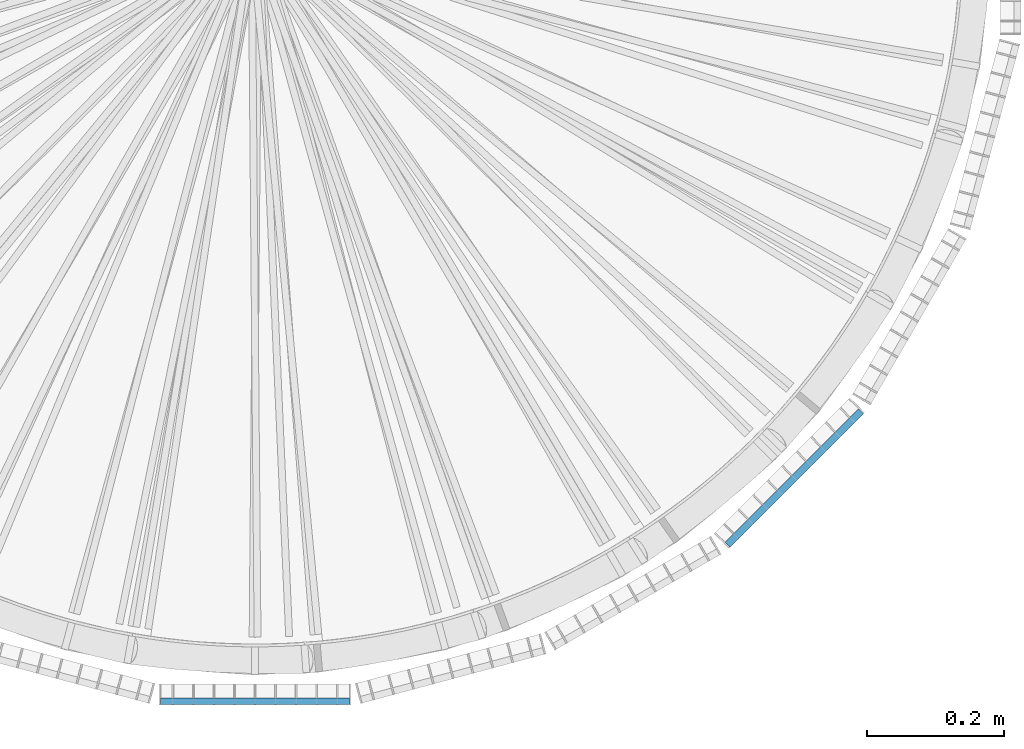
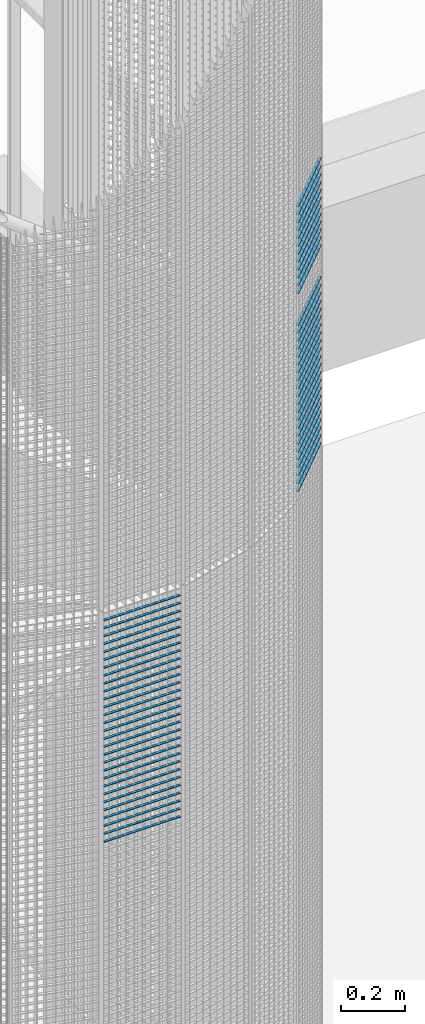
# One storey, part 381 of 1148: 63 beams, 2 elements without a shape of their own.
"""IFC2X3 building model written with IfcOpenShell, lengths in millimetres."""

from ifc_helpers import new_model, si_unit, frame, origin_with_axes, origin_2d_with_axis, place, context, subcontext, project, spatial, rectangle, extrude, material, type_object, element, aggregate, save


model = new_model("IFC2X3")

# Units and contexts
model_context = context("Model", 3, precision=1e-05, world=origin_with_axes())
body_context = subcontext(model_context, "Body", "Model", "MODEL_VIEW")
ifc_project = project(units=[si_unit("LENGTHUNIT", "METRE", prefix="MILLI"), si_unit("AREAUNIT", "SQUARE_METRE"), si_unit("VOLUMEUNIT", "CUBIC_METRE"), si_unit("MASSUNIT", "GRAM", prefix="KILO"), si_unit("TIMEUNIT", "SECOND"), si_unit("PLANEANGLEUNIT", "RADIAN"), si_unit("SOLIDANGLEUNIT", "STERADIAN"), si_unit("THERMODYNAMICTEMPERATUREUNIT", "DEGREE_CELSIUS"), si_unit("LUMINOUSINTENSITYUNIT", "LUMEN")], contexts=[model_context])

# Site, building, storey
site_placement = place(None, origin_with_axes())
site = spatial("IfcSite", under=ifc_project, at=site_placement, Name="Undefined", CompositionType="ELEMENT")
building_placement = place(site_placement, origin_with_axes())
building = spatial("IfcBuilding", under=site, at=building_placement, Name="Undefined", CompositionType="ELEMENT")
storey_placement = place(building_placement, origin_with_axes())
storey = spatial("IfcBuildingStorey", under=building, at=storey_placement, Name="Undefined", CompositionType="ELEMENT", Elevation=0.0)

# Assembly, beams
assembly_1_placement = place(storey_placement, origin_with_axes())
assembly_1 = element("IfcElementAssembly", 1, at=assembly_1_placement, inside=storey, Name="BORDURE", AssemblyPlace="NOTDEFINED", PredefinedType="NOTDEFINED")
ifc_material = material(Name="STEEL/S235JR")
beam_type = type_object("IfcBeamType", Name="PL2*10", PredefinedType="NOTDEFINED")
beam_1_placement = place(assembly_1_placement, frame((22484.9271684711, -689.771348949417, 15660.0), z_axis=(0.707106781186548, -0.707106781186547, 0.0), x_axis=(-0.70710678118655, -0.707106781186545, 0.0)))
beam_1 = element("IfcBeam", 2, at=beam_1_placement, type_object=beam_type, material=ifc_material, Name="ENTRETOISE", context=body_context, shape_type="SweptSolid", body=[
    extrude(rectangle(XDim=2.0, YDim=10.0, at=origin_2d_with_axis()), frame((275.999999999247, 9.09494701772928e-13, 1.53210777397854e-14), z_axis=(-1.0, 0.0, 0.0), x_axis=(0.0, -1.0, 0.0)), (0.0, 0.0, 1.0), 276.0),
])
beam_2_placement = place(assembly_1_placement, frame((22484.9271684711, -689.771348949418, 15630.0), z_axis=(0.707106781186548, -0.707106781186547, 0.0), x_axis=(-0.70710678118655, -0.707106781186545, 0.0)))
beam_2 = element("IfcBeam", 3, at=beam_2_placement, type_object=beam_type, material=ifc_material, Name="ENTRETOISE", context=body_context, shape_type="SweptSolid", body=[
    extrude(rectangle(XDim=2.0, YDim=10.0, at=origin_2d_with_axis()), frame((275.999999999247, 9.09494701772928e-13, 1.53210777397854e-14), z_axis=(-1.0, 0.0, 0.0), x_axis=(0.0, -1.0, 0.0)), (0.0, 0.0, 1.0), 276.0),
])
beam_3_placement = place(assembly_1_placement, frame((22484.9271684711, -689.771348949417, 15780.0), z_axis=(0.707106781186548, -0.707106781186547, 0.0), x_axis=(-0.70710678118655, -0.707106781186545, 0.0)))
beam_3 = element("IfcBeam", 4, at=beam_3_placement, type_object=beam_type, material=ifc_material, Name="ENTRETOISE", context=body_context, shape_type="SweptSolid", body=[
    extrude(rectangle(XDim=2.0, YDim=10.0, at=origin_2d_with_axis()), frame((275.999999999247, 9.09494701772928e-13, 1.53210777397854e-14), z_axis=(-1.0, 0.0, 0.0), x_axis=(0.0, -1.0, 0.0)), (0.0, 0.0, 1.0), 276.0),
])
beam_4_placement = place(assembly_1_placement, frame((22484.9271684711, -689.771348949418, 15600.0), z_axis=(0.707106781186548, -0.707106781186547, 0.0), x_axis=(-0.70710678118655, -0.707106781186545, 0.0)))
beam_4 = element("IfcBeam", 5, at=beam_4_placement, type_object=beam_type, material=ifc_material, Name="ENTRETOISE", context=body_context, shape_type="SweptSolid", body=[
    extrude(rectangle(XDim=2.0, YDim=10.0, at=origin_2d_with_axis()), frame((275.999999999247, 9.09494701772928e-13, 1.53210777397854e-14), z_axis=(-1.0, 0.0, 0.0), x_axis=(0.0, -1.0, 0.0)), (0.0, 0.0, 1.0), 276.0),
])
beam_5_placement = place(assembly_1_placement, frame((22484.9271684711, -689.771348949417, 15810.0), z_axis=(0.707106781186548, -0.707106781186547, 0.0), x_axis=(-0.70710678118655, -0.707106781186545, 0.0)))
beam_5 = element("IfcBeam", 6, at=beam_5_placement, type_object=beam_type, material=ifc_material, Name="ENTRETOISE", context=body_context, shape_type="SweptSolid", body=[
    extrude(rectangle(XDim=2.0, YDim=10.0, at=origin_2d_with_axis()), frame((275.999999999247, 9.09494701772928e-13, 1.53210777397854e-14), z_axis=(-1.0, 0.0, 0.0), x_axis=(0.0, -1.0, 0.0)), (0.0, 0.0, 1.0), 276.0),
])
beam_6_placement = place(assembly_1_placement, frame((22484.9271684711, -689.771348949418, 15570.0), z_axis=(0.707106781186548, -0.707106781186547, 0.0), x_axis=(-0.70710678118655, -0.707106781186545, 0.0)))
beam_6 = element("IfcBeam", 7, at=beam_6_placement, type_object=beam_type, material=ifc_material, Name="ENTRETOISE", context=body_context, shape_type="SweptSolid", body=[
    extrude(rectangle(XDim=2.0, YDim=10.0, at=origin_2d_with_axis()), frame((275.999999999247, 9.09494701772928e-13, 1.53210777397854e-14), z_axis=(-1.0, 0.0, 0.0), x_axis=(0.0, -1.0, 0.0)), (0.0, 0.0, 1.0), 276.0),
])
beam_7_placement = place(assembly_1_placement, frame((22484.9271684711, -689.771348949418, 15540.0), z_axis=(0.707106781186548, -0.707106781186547, 0.0), x_axis=(-0.70710678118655, -0.707106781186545, 0.0)))
beam_7 = element("IfcBeam", 8, at=beam_7_placement, type_object=beam_type, material=ifc_material, Name="ENTRETOISE", context=body_context, shape_type="SweptSolid", body=[
    extrude(rectangle(XDim=2.0, YDim=10.0, at=origin_2d_with_axis()), frame((275.999999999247, 9.09494701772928e-13, 1.53210777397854e-14), z_axis=(-1.0, 0.0, 0.0), x_axis=(0.0, -1.0, 0.0)), (0.0, 0.0, 1.0), 276.0),
])
beam_8_placement = place(assembly_1_placement, frame((22484.9271684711, -689.771348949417, 15840.0), z_axis=(0.707106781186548, -0.707106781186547, 0.0), x_axis=(-0.70710678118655, -0.707106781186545, 0.0)))
beam_8 = element("IfcBeam", 9, at=beam_8_placement, type_object=beam_type, material=ifc_material, Name="ENTRETOISE", context=body_context, shape_type="SweptSolid", body=[
    extrude(rectangle(XDim=2.0, YDim=10.0, at=origin_2d_with_axis()), frame((275.999999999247, 9.09494701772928e-13, 1.53210777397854e-14), z_axis=(-1.0, 0.0, 0.0), x_axis=(0.0, -1.0, 0.0)), (0.0, 0.0, 1.0), 276.0),
])
beam_9_placement = place(assembly_1_placement, frame((22484.9271684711, -689.771348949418, 15510.0), z_axis=(0.707106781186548, -0.707106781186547, 0.0), x_axis=(-0.70710678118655, -0.707106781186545, 0.0)))
beam_9 = element("IfcBeam", 10, at=beam_9_placement, type_object=beam_type, material=ifc_material, Name="ENTRETOISE", context=body_context, shape_type="SweptSolid", body=[
    extrude(rectangle(XDim=2.0, YDim=10.0, at=origin_2d_with_axis()), frame((275.999999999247, 9.09494701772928e-13, 1.53210777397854e-14), z_axis=(-1.0, 0.0, 0.0), x_axis=(0.0, -1.0, 0.0)), (0.0, 0.0, 1.0), 276.0),
])
beam_10_placement = place(assembly_1_placement, frame((22484.9271684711, -689.771348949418, 15480.0), z_axis=(0.707106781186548, -0.707106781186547, 0.0), x_axis=(-0.70710678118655, -0.707106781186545, 0.0)))
beam_10 = element("IfcBeam", 11, at=beam_10_placement, type_object=beam_type, material=ifc_material, Name="ENTRETOISE", context=body_context, shape_type="SweptSolid", body=[
    extrude(rectangle(XDim=2.0, YDim=10.0, at=origin_2d_with_axis()), frame((275.999999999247, 9.09494701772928e-13, 1.53210777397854e-14), z_axis=(-1.0, 0.0, 0.0), x_axis=(0.0, -1.0, 0.0)), (0.0, 0.0, 1.0), 276.0),
])
beam_11_placement = place(assembly_1_placement, frame((22484.9271684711, -689.771348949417, 15870.0), z_axis=(0.707106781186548, -0.707106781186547, 0.0), x_axis=(-0.70710678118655, -0.707106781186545, 0.0)))
beam_11 = element("IfcBeam", 12, at=beam_11_placement, type_object=beam_type, material=ifc_material, Name="ENTRETOISE", context=body_context, shape_type="SweptSolid", body=[
    extrude(rectangle(XDim=2.0, YDim=10.0, at=origin_2d_with_axis()), frame((275.999999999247, 9.09494701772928e-13, 1.53210777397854e-14), z_axis=(-1.0, 0.0, 0.0), x_axis=(0.0, -1.0, 0.0)), (0.0, 0.0, 1.0), 276.0),
])
beam_12_placement = place(assembly_1_placement, frame((22484.9271684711, -689.771348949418, 15450.0), z_axis=(0.707106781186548, -0.707106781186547, 0.0), x_axis=(-0.70710678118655, -0.707106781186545, 0.0)))
beam_12 = element("IfcBeam", 13, at=beam_12_placement, type_object=beam_type, material=ifc_material, Name="ENTRETOISE", context=body_context, shape_type="SweptSolid", body=[
    extrude(rectangle(XDim=2.0, YDim=10.0, at=origin_2d_with_axis()), frame((275.999999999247, 9.09494701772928e-13, 1.53210777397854e-14), z_axis=(-1.0, 0.0, 0.0), x_axis=(0.0, -1.0, 0.0)), (0.0, 0.0, 1.0), 276.0),
])
beam_13_placement = place(assembly_1_placement, frame((22484.9271684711, -689.771348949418, 15420.0), z_axis=(0.707106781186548, -0.707106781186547, 0.0), x_axis=(-0.70710678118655, -0.707106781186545, 0.0)))
beam_13 = element("IfcBeam", 14, at=beam_13_placement, type_object=beam_type, material=ifc_material, Name="ENTRETOISE", context=body_context, shape_type="SweptSolid", body=[
    extrude(rectangle(XDim=2.0, YDim=10.0, at=origin_2d_with_axis()), frame((275.999999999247, 9.09494701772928e-13, 1.53210777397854e-14), z_axis=(-1.0, 0.0, 0.0), x_axis=(0.0, -1.0, 0.0)), (0.0, 0.0, 1.0), 276.0),
])
beam_14_placement = place(assembly_1_placement, frame((22484.9271684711, -689.771348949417, 15900.0), z_axis=(0.707106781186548, -0.707106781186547, 0.0), x_axis=(-0.70710678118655, -0.707106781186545, 0.0)))
beam_14 = element("IfcBeam", 15, at=beam_14_placement, type_object=beam_type, material=ifc_material, Name="ENTRETOISE", context=body_context, shape_type="SweptSolid", body=[
    extrude(rectangle(XDim=2.0, YDim=10.0, at=origin_2d_with_axis()), frame((275.999999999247, 9.09494701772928e-13, 1.53210777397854e-14), z_axis=(-1.0, 0.0, 0.0), x_axis=(0.0, -1.0, 0.0)), (0.0, 0.0, 1.0), 276.0),
])
beam_15_placement = place(assembly_1_placement, frame((22484.9271684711, -689.771348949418, 15390.0), z_axis=(0.707106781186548, -0.707106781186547, 0.0), x_axis=(-0.70710678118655, -0.707106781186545, 0.0)))
beam_15 = element("IfcBeam", 16, at=beam_15_placement, type_object=beam_type, material=ifc_material, Name="ENTRETOISE", context=body_context, shape_type="SweptSolid", body=[
    extrude(rectangle(XDim=2.0, YDim=10.0, at=origin_2d_with_axis()), frame((275.999999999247, 9.09494701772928e-13, 1.53210777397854e-14), z_axis=(-1.0, 0.0, 0.0), x_axis=(0.0, -1.0, 0.0)), (0.0, 0.0, 1.0), 276.0),
])
beam_16_placement = place(assembly_1_placement, frame((22484.9271684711, -689.771348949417, 15930.0), z_axis=(0.707106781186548, -0.707106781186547, 0.0), x_axis=(-0.70710678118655, -0.707106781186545, 0.0)))
beam_16 = element("IfcBeam", 17, at=beam_16_placement, type_object=beam_type, material=ifc_material, Name="ENTRETOISE", context=body_context, shape_type="SweptSolid", body=[
    extrude(rectangle(XDim=2.0, YDim=10.0, at=origin_2d_with_axis()), frame((275.999999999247, 9.09494701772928e-13, 1.53210777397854e-14), z_axis=(-1.0, 0.0, 0.0), x_axis=(0.0, -1.0, 0.0)), (0.0, 0.0, 1.0), 276.0),
])
beam_17_placement = place(assembly_1_placement, frame((22484.9271684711, -689.771348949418, 15360.0), z_axis=(0.707106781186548, -0.707106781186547, 0.0), x_axis=(-0.70710678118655, -0.707106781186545, 0.0)))
beam_17 = element("IfcBeam", 18, at=beam_17_placement, type_object=beam_type, material=ifc_material, Name="ENTRETOISE", context=body_context, shape_type="SweptSolid", body=[
    extrude(rectangle(XDim=2.0, YDim=10.0, at=origin_2d_with_axis()), frame((275.999999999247, 9.09494701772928e-13, 1.53210777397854e-14), z_axis=(-1.0, 0.0, 0.0), x_axis=(0.0, -1.0, 0.0)), (0.0, 0.0, 1.0), 276.0),
])
beam_18_placement = place(assembly_1_placement, frame((22484.9271684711, -689.771348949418, 15330.0), z_axis=(0.707106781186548, -0.707106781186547, 0.0), x_axis=(-0.70710678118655, -0.707106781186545, 0.0)))
beam_18 = element("IfcBeam", 19, at=beam_18_placement, type_object=beam_type, material=ifc_material, Name="ENTRETOISE", context=body_context, shape_type="SweptSolid", body=[
    extrude(rectangle(XDim=2.0, YDim=10.0, at=origin_2d_with_axis()), frame((275.999999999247, 9.09494701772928e-13, 1.53210777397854e-14), z_axis=(-1.0, 0.0, 0.0), x_axis=(0.0, -1.0, 0.0)), (0.0, 0.0, 1.0), 276.0),
])
beam_19_placement = place(assembly_1_placement, frame((22484.9271684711, -689.771348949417, 15960.0), z_axis=(0.707106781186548, -0.707106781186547, 0.0), x_axis=(-0.70710678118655, -0.707106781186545, 0.0)))
beam_19 = element("IfcBeam", 20, at=beam_19_placement, type_object=beam_type, material=ifc_material, Name="ENTRETOISE", context=body_context, shape_type="SweptSolid", body=[
    extrude(rectangle(XDim=2.0, YDim=10.0, at=origin_2d_with_axis()), frame((275.999999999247, 9.09494701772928e-13, 1.53210777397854e-14), z_axis=(-1.0, 0.0, 0.0), x_axis=(0.0, -1.0, 0.0)), (0.0, 0.0, 1.0), 276.0),
])
beam_20_placement = place(assembly_1_placement, frame((22484.9271684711, -689.771348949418, 15300.0), z_axis=(0.707106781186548, -0.707106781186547, 0.0), x_axis=(-0.70710678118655, -0.707106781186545, 0.0)))
beam_20 = element("IfcBeam", 21, at=beam_20_placement, type_object=beam_type, material=ifc_material, Name="ENTRETOISE", context=body_context, shape_type="SweptSolid", body=[
    extrude(rectangle(XDim=2.0, YDim=10.0, at=origin_2d_with_axis()), frame((275.999999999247, 9.09494701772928e-13, 1.53210777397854e-14), z_axis=(-1.0, 0.0, 0.0), x_axis=(0.0, -1.0, 0.0)), (0.0, 0.0, 1.0), 276.0),
])
beam_21_placement = place(assembly_1_placement, frame((22484.9271684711, -689.771348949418, 15270.0), z_axis=(0.707106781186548, -0.707106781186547, 0.0), x_axis=(-0.70710678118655, -0.707106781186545, 0.0)))
beam_21 = element("IfcBeam", 22, at=beam_21_placement, type_object=beam_type, material=ifc_material, Name="ENTRETOISE", context=body_context, shape_type="SweptSolid", body=[
    extrude(rectangle(XDim=2.0, YDim=10.0, at=origin_2d_with_axis()), frame((275.999999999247, 9.09494701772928e-13, 1.53210777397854e-14), z_axis=(-1.0, 0.0, 0.0), x_axis=(0.0, -1.0, 0.0)), (0.0, 0.0, 1.0), 276.0),
])
beam_22_placement = place(assembly_1_placement, frame((22484.9271684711, -689.771348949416, 15990.0), z_axis=(0.707106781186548, -0.707106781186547, 0.0), x_axis=(-0.70710678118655, -0.707106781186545, 0.0)))
beam_22 = element("IfcBeam", 23, at=beam_22_placement, type_object=beam_type, material=ifc_material, Name="ENTRETOISE", context=body_context, shape_type="SweptSolid", body=[
    extrude(rectangle(XDim=2.0, YDim=10.0, at=origin_2d_with_axis()), frame((275.999999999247, 9.09494701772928e-13, 1.53210777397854e-14), z_axis=(-1.0, 0.0, 0.0), x_axis=(0.0, -1.0, 0.0)), (0.0, 0.0, 1.0), 276.0),
])
beam_23_placement = place(assembly_1_placement, frame((22484.9271684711, -689.771348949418, 15240.0), z_axis=(0.707106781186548, -0.707106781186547, 0.0), x_axis=(-0.70710678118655, -0.707106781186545, 0.0)))
beam_23 = element("IfcBeam", 24, at=beam_23_placement, type_object=beam_type, material=ifc_material, Name="ENTRETOISE", context=body_context, shape_type="SweptSolid", body=[
    extrude(rectangle(XDim=2.0, YDim=10.0, at=origin_2d_with_axis()), frame((275.999999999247, 9.09494701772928e-13, 1.53210777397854e-14), z_axis=(-1.0, 0.0, 0.0), x_axis=(0.0, -1.0, 0.0)), (0.0, 0.0, 1.0), 276.0),
])
beam_24_placement = place(assembly_1_placement, frame((22484.9271684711, -689.771348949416, 16020.0), z_axis=(0.707106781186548, -0.707106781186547, 0.0), x_axis=(-0.70710678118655, -0.707106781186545, 0.0)))
beam_24 = element("IfcBeam", 25, at=beam_24_placement, type_object=beam_type, material=ifc_material, Name="ENTRETOISE", context=body_context, shape_type="SweptSolid", body=[
    extrude(rectangle(XDim=2.0, YDim=10.0, at=origin_2d_with_axis()), frame((275.999999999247, 9.09494701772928e-13, 1.53210777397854e-14), z_axis=(-1.0, 0.0, 0.0), x_axis=(0.0, -1.0, 0.0)), (0.0, 0.0, 1.0), 276.0),
])
beam_25_placement = place(assembly_1_placement, frame((22484.9271684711, -689.771348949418, 15210.0), z_axis=(0.707106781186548, -0.707106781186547, 0.0), x_axis=(-0.70710678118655, -0.707106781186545, 0.0)))
beam_25 = element("IfcBeam", 26, at=beam_25_placement, type_object=beam_type, material=ifc_material, Name="ENTRETOISE", context=body_context, shape_type="SweptSolid", body=[
    extrude(rectangle(XDim=2.0, YDim=10.0, at=origin_2d_with_axis()), frame((275.999999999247, 9.09494701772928e-13, 1.53210777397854e-14), z_axis=(-1.0, 0.0, 0.0), x_axis=(0.0, -1.0, 0.0)), (0.0, 0.0, 1.0), 276.0),
])
beam_26_placement = place(assembly_1_placement, frame((22484.9271684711, -689.771348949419, 15180.0), z_axis=(0.707106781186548, -0.707106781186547, 0.0), x_axis=(-0.70710678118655, -0.707106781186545, 0.0)))
beam_26 = element("IfcBeam", 27, at=beam_26_placement, type_object=beam_type, material=ifc_material, Name="ENTRETOISE", context=body_context, shape_type="SweptSolid", body=[
    extrude(rectangle(XDim=2.0, YDim=10.0, at=origin_2d_with_axis()), frame((275.999999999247, 9.09494701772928e-13, 1.53210777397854e-14), z_axis=(-1.0, 0.0, 0.0), x_axis=(0.0, -1.0, 0.0)), (0.0, 0.0, 1.0), 276.0),
])
beam_27_placement = place(assembly_1_placement, frame((22484.9271684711, -689.771348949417, 16050.0), z_axis=(0.707106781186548, -0.707106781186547, 0.0), x_axis=(-0.70710678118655, -0.707106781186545, 0.0)))
beam_27 = element("IfcBeam", 28, at=beam_27_placement, type_object=beam_type, material=ifc_material, Name="ENTRETOISE", context=body_context, shape_type="SweptSolid", body=[
    extrude(rectangle(XDim=2.0, YDim=10.0, at=origin_2d_with_axis()), frame((275.999999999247, 9.09494701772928e-13, 1.53210777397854e-14), z_axis=(-1.0, 0.0, 0.0), x_axis=(0.0, -1.0, 0.0)), (0.0, 0.0, 1.0), 276.0),
])
beam_28_placement = place(assembly_1_placement, frame((22484.9271684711, -689.771348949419, 15150.0), z_axis=(0.707106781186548, -0.707106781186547, 0.0), x_axis=(-0.70710678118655, -0.707106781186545, 0.0)))
beam_28 = element("IfcBeam", 29, at=beam_28_placement, type_object=beam_type, material=ifc_material, Name="ENTRETOISE", context=body_context, shape_type="SweptSolid", body=[
    extrude(rectangle(XDim=2.0, YDim=10.0, at=origin_2d_with_axis()), frame((275.999999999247, 9.09494701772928e-13, 1.53210777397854e-14), z_axis=(-1.0, 0.0, 0.0), x_axis=(0.0, -1.0, 0.0)), (0.0, 0.0, 1.0), 276.0),
])
beam_29_placement = place(assembly_1_placement, frame((22484.9271684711, -689.771348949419, 15120.0), z_axis=(0.707106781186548, -0.707106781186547, 0.0), x_axis=(-0.70710678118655, -0.707106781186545, 0.0)))
beam_29 = element("IfcBeam", 30, at=beam_29_placement, type_object=beam_type, material=ifc_material, Name="ENTRETOISE", context=body_context, shape_type="SweptSolid", body=[
    extrude(rectangle(XDim=2.0, YDim=10.0, at=origin_2d_with_axis()), frame((275.999999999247, 9.09494701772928e-13, 1.53210777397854e-14), z_axis=(-1.0, 0.0, 0.0), x_axis=(0.0, -1.0, 0.0)), (0.0, 0.0, 1.0), 276.0),
])
beam_30_placement = place(assembly_1_placement, frame((22484.9271684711, -689.771348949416, 16080.0), z_axis=(0.707106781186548, -0.707106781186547, 0.0), x_axis=(-0.70710678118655, -0.707106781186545, 0.0)))
beam_30 = element("IfcBeam", 31, at=beam_30_placement, type_object=beam_type, material=ifc_material, Name="ENTRETOISE", context=body_context, shape_type="SweptSolid", body=[
    extrude(rectangle(XDim=2.0, YDim=10.0, at=origin_2d_with_axis()), frame((275.999999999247, 9.09494701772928e-13, 1.53210777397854e-14), z_axis=(-1.0, 0.0, 0.0), x_axis=(0.0, -1.0, 0.0)), (0.0, 0.0, 1.0), 276.0),
])
beam_31_placement = place(assembly_1_placement, frame((22484.9271684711, -689.771348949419, 15090.0), z_axis=(0.707106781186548, -0.707106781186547, 0.0), x_axis=(-0.70710678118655, -0.707106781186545, 0.0)))
beam_31 = element("IfcBeam", 32, at=beam_31_placement, type_object=beam_type, material=ifc_material, Name="ENTRETOISE", context=body_context, shape_type="SweptSolid", body=[
    extrude(rectangle(XDim=2.0, YDim=10.0, at=origin_2d_with_axis()), frame((275.999999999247, 9.09494701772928e-13, 1.53210777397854e-14), z_axis=(-1.0, 0.0, 0.0), x_axis=(0.0, -1.0, 0.0)), (0.0, 0.0, 1.0), 276.0),
])
beam_32_placement = place(assembly_1_placement, frame((22484.9271684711, -689.771348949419, 15060.0), z_axis=(0.707106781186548, -0.707106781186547, 0.0), x_axis=(-0.70710678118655, -0.707106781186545, 0.0)))
beam_32 = element("IfcBeam", 33, at=beam_32_placement, type_object=beam_type, material=ifc_material, Name="ENTRETOISE", context=body_context, shape_type="SweptSolid", body=[
    extrude(rectangle(XDim=2.0, YDim=10.0, at=origin_2d_with_axis()), frame((275.999999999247, 9.09494701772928e-13, 1.53210777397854e-14), z_axis=(-1.0, 0.0, 0.0), x_axis=(0.0, -1.0, 0.0)), (0.0, 0.0, 1.0), 276.0),
])
beam_33_placement = place(assembly_1_placement, frame((22484.9271684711, -689.771348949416, 16110.0), z_axis=(0.707106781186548, -0.707106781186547, 0.0), x_axis=(-0.70710678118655, -0.707106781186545, 0.0)))
beam_33 = element("IfcBeam", 34, at=beam_33_placement, type_object=beam_type, material=ifc_material, Name="ENTRETOISE", context=body_context, shape_type="SweptSolid", body=[
    extrude(rectangle(XDim=2.0, YDim=10.0, at=origin_2d_with_axis()), frame((275.999999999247, 9.09494701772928e-13, 1.53210777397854e-14), z_axis=(-1.0, 0.0, 0.0), x_axis=(0.0, -1.0, 0.0)), (0.0, 0.0, 1.0), 276.0),
])
beam_34_placement = place(assembly_1_placement, frame((22484.9271684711, -689.771348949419, 15030.0), z_axis=(0.707106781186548, -0.707106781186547, 0.0), x_axis=(-0.70710678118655, -0.707106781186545, 0.0)))
beam_34 = element("IfcBeam", 35, at=beam_34_placement, type_object=beam_type, material=ifc_material, Name="ENTRETOISE", context=body_context, shape_type="SweptSolid", body=[
    extrude(rectangle(XDim=2.0, YDim=10.0, at=origin_2d_with_axis()), frame((275.999999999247, 9.09494701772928e-13, 1.53210777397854e-14), z_axis=(-1.0, 0.0, 0.0), x_axis=(0.0, -1.0, 0.0)), (0.0, 0.0, 1.0), 276.0),
])
aggregate(assembly_1, [beam_1, beam_2, beam_3, beam_4, beam_5, beam_6, beam_7, beam_8, beam_9, beam_10, beam_11, beam_12, beam_13, beam_14, beam_15, beam_16, beam_17, beam_18, beam_19, beam_20, beam_21, beam_22, beam_23, beam_24, beam_25, beam_26, beam_27, beam_28, beam_29, beam_30, beam_31, beam_32, beam_33, beam_34])

assembly_2_placement = place(storey_placement, origin_with_axes())
assembly_2 = element("IfcElementAssembly", 36, at=assembly_2_placement, inside=storey, Name="BORDURE", AssemblyPlace="NOTDEFINED", PredefinedType="NOTDEFINED")
beam_35_placement = place(assembly_2_placement, frame((21737.9960033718, -1113.47999999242, 14970.0), z_axis=(0.0, -1.0, 0.0), x_axis=(-1.0, 0.0, 0.0)))
beam_35 = element("IfcBeam", 37, at=beam_35_placement, type_object=beam_type, material=ifc_material, Name="ENTRETOISE", context=body_context, shape_type="SweptSolid", body=[
    extrude(rectangle(XDim=2.0, YDim=10.0, at=origin_2d_with_axis()), frame((275.999999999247, 9.09494701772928e-13, 1.53210777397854e-14), z_axis=(-1.0, 0.0, 0.0), x_axis=(0.0, -1.0, 0.0)), (0.0, 0.0, 1.0), 276.0),
])
beam_36_placement = place(assembly_2_placement, frame((21737.9960033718, -1113.47999999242, 14940.0), z_axis=(0.0, -1.0, 0.0), x_axis=(-1.0, 0.0, 0.0)))
beam_36 = element("IfcBeam", 38, at=beam_36_placement, type_object=beam_type, material=ifc_material, Name="ENTRETOISE", context=body_context, shape_type="SweptSolid", body=[
    extrude(rectangle(XDim=2.0, YDim=10.0, at=origin_2d_with_axis()), frame((275.999999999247, 9.09494701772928e-13, 1.53210777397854e-14), z_axis=(-1.0, 0.0, 0.0), x_axis=(0.0, -1.0, 0.0)), (0.0, 0.0, 1.0), 276.0),
])
beam_37_placement = place(assembly_2_placement, frame((21737.9960033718, -1113.47999999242, 14910.0), z_axis=(0.0, -1.0, 0.0), x_axis=(-1.0, 0.0, 0.0)))
beam_37 = element("IfcBeam", 39, at=beam_37_placement, type_object=beam_type, material=ifc_material, Name="ENTRETOISE", context=body_context, shape_type="SweptSolid", body=[
    extrude(rectangle(XDim=2.0, YDim=10.0, at=origin_2d_with_axis()), frame((275.999999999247, 9.09494701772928e-13, 1.53210777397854e-14), z_axis=(-1.0, 0.0, 0.0), x_axis=(0.0, -1.0, 0.0)), (0.0, 0.0, 1.0), 276.0),
])
beam_38_placement = place(assembly_2_placement, frame((21737.9960033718, -1113.47999999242, 14880.0), z_axis=(0.0, -1.0, 0.0), x_axis=(-1.0, 0.0, 0.0)))
beam_38 = element("IfcBeam", 40, at=beam_38_placement, type_object=beam_type, material=ifc_material, Name="ENTRETOISE", context=body_context, shape_type="SweptSolid", body=[
    extrude(rectangle(XDim=2.0, YDim=10.0, at=origin_2d_with_axis()), frame((275.999999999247, 9.09494701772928e-13, 1.53210777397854e-14), z_axis=(-1.0, 0.0, 0.0), x_axis=(0.0, -1.0, 0.0)), (0.0, 0.0, 1.0), 276.0),
])
beam_39_placement = place(assembly_2_placement, frame((21737.9960033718, -1113.47999999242, 14850.0), z_axis=(0.0, -1.0, 0.0), x_axis=(-1.0, 0.0, 0.0)))
beam_39 = element("IfcBeam", 41, at=beam_39_placement, type_object=beam_type, material=ifc_material, Name="ENTRETOISE", context=body_context, shape_type="SweptSolid", body=[
    extrude(rectangle(XDim=2.0, YDim=10.0, at=origin_2d_with_axis()), frame((275.999999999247, 9.09494701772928e-13, 1.53210777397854e-14), z_axis=(-1.0, 0.0, 0.0), x_axis=(0.0, -1.0, 0.0)), (0.0, 0.0, 1.0), 276.0),
])
beam_40_placement = place(assembly_2_placement, frame((21737.9960033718, -1113.47999999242, 14820.0), z_axis=(0.0, -1.0, 0.0), x_axis=(-1.0, 0.0, 0.0)))
beam_40 = element("IfcBeam", 42, at=beam_40_placement, type_object=beam_type, material=ifc_material, Name="ENTRETOISE", context=body_context, shape_type="SweptSolid", body=[
    extrude(rectangle(XDim=2.0, YDim=10.0, at=origin_2d_with_axis()), frame((275.999999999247, 9.09494701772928e-13, 1.53210777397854e-14), z_axis=(-1.0, 0.0, 0.0), x_axis=(0.0, -1.0, 0.0)), (0.0, 0.0, 1.0), 276.0),
])
beam_41_placement = place(assembly_2_placement, frame((21737.9960033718, -1113.47999999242, 14790.0), z_axis=(0.0, -1.0, 0.0), x_axis=(-1.0, 0.0, 0.0)))
beam_41 = element("IfcBeam", 43, at=beam_41_placement, type_object=beam_type, material=ifc_material, Name="ENTRETOISE", context=body_context, shape_type="SweptSolid", body=[
    extrude(rectangle(XDim=2.0, YDim=10.0, at=origin_2d_with_axis()), frame((275.999999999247, 9.09494701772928e-13, 1.53210777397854e-14), z_axis=(-1.0, 0.0, 0.0), x_axis=(0.0, -1.0, 0.0)), (0.0, 0.0, 1.0), 276.0),
])
beam_42_placement = place(assembly_2_placement, frame((21737.9960033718, -1113.47999999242, 14760.0), z_axis=(0.0, -1.0, 0.0), x_axis=(-1.0, 0.0, 0.0)))
beam_42 = element("IfcBeam", 44, at=beam_42_placement, type_object=beam_type, material=ifc_material, Name="ENTRETOISE", context=body_context, shape_type="SweptSolid", body=[
    extrude(rectangle(XDim=2.0, YDim=10.0, at=origin_2d_with_axis()), frame((275.999999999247, 9.09494701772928e-13, 1.53210777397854e-14), z_axis=(-1.0, 0.0, 0.0), x_axis=(0.0, -1.0, 0.0)), (0.0, 0.0, 1.0), 276.0),
])
beam_43_placement = place(assembly_2_placement, frame((21737.9960033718, -1113.47999999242, 14730.0), z_axis=(0.0, -1.0, 0.0), x_axis=(-1.0, 0.0, 0.0)))
beam_43 = element("IfcBeam", 45, at=beam_43_placement, type_object=beam_type, material=ifc_material, Name="ENTRETOISE", context=body_context, shape_type="SweptSolid", body=[
    extrude(rectangle(XDim=2.0, YDim=10.0, at=origin_2d_with_axis()), frame((275.999999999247, 9.09494701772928e-13, 1.53210777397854e-14), z_axis=(-1.0, 0.0, 0.0), x_axis=(0.0, -1.0, 0.0)), (0.0, 0.0, 1.0), 276.0),
])
beam_44_placement = place(assembly_2_placement, frame((21737.9960033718, -1113.47999999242, 14700.0), z_axis=(0.0, -1.0, 0.0), x_axis=(-1.0, 0.0, 0.0)))
beam_44 = element("IfcBeam", 46, at=beam_44_placement, type_object=beam_type, material=ifc_material, Name="ENTRETOISE", context=body_context, shape_type="SweptSolid", body=[
    extrude(rectangle(XDim=2.0, YDim=10.0, at=origin_2d_with_axis()), frame((275.999999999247, 9.09494701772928e-13, 1.53210777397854e-14), z_axis=(-1.0, 0.0, 0.0), x_axis=(0.0, -1.0, 0.0)), (0.0, 0.0, 1.0), 276.0),
])
beam_45_placement = place(assembly_2_placement, frame((21737.9960033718, -1113.47999999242, 14670.0), z_axis=(0.0, -1.0, 0.0), x_axis=(-1.0, 0.0, 0.0)))
beam_45 = element("IfcBeam", 47, at=beam_45_placement, type_object=beam_type, material=ifc_material, Name="ENTRETOISE", context=body_context, shape_type="SweptSolid", body=[
    extrude(rectangle(XDim=2.0, YDim=10.0, at=origin_2d_with_axis()), frame((275.999999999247, 9.09494701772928e-13, 1.53210777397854e-14), z_axis=(-1.0, 0.0, 0.0), x_axis=(0.0, -1.0, 0.0)), (0.0, 0.0, 1.0), 276.0),
])
beam_46_placement = place(assembly_2_placement, frame((21737.9960033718, -1113.47999999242, 14640.0), z_axis=(0.0, -1.0, 0.0), x_axis=(-1.0, 0.0, 0.0)))
beam_46 = element("IfcBeam", 48, at=beam_46_placement, type_object=beam_type, material=ifc_material, Name="ENTRETOISE", context=body_context, shape_type="SweptSolid", body=[
    extrude(rectangle(XDim=2.0, YDim=10.0, at=origin_2d_with_axis()), frame((275.999999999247, 9.09494701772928e-13, 1.53210777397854e-14), z_axis=(-1.0, 0.0, 0.0), x_axis=(0.0, -1.0, 0.0)), (0.0, 0.0, 1.0), 276.0),
])
beam_47_placement = place(assembly_2_placement, frame((21737.9960033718, -1113.47999999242, 14610.0), z_axis=(0.0, -1.0, 0.0), x_axis=(-1.0, 0.0, 0.0)))
beam_47 = element("IfcBeam", 49, at=beam_47_placement, type_object=beam_type, material=ifc_material, Name="ENTRETOISE", context=body_context, shape_type="SweptSolid", body=[
    extrude(rectangle(XDim=2.0, YDim=10.0, at=origin_2d_with_axis()), frame((275.999999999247, 9.09494701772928e-13, 1.53210777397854e-14), z_axis=(-1.0, 0.0, 0.0), x_axis=(0.0, -1.0, 0.0)), (0.0, 0.0, 1.0), 276.0),
])
beam_48_placement = place(assembly_2_placement, frame((21737.9960033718, -1113.47999999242, 14580.0), z_axis=(0.0, -1.0, 0.0), x_axis=(-1.0, 0.0, 0.0)))
beam_48 = element("IfcBeam", 50, at=beam_48_placement, type_object=beam_type, material=ifc_material, Name="ENTRETOISE", context=body_context, shape_type="SweptSolid", body=[
    extrude(rectangle(XDim=2.0, YDim=10.0, at=origin_2d_with_axis()), frame((275.999999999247, 9.09494701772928e-13, 1.53210777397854e-14), z_axis=(-1.0, 0.0, 0.0), x_axis=(0.0, -1.0, 0.0)), (0.0, 0.0, 1.0), 276.0),
])
beam_49_placement = place(assembly_2_placement, frame((21737.9960033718, -1113.47999999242, 14550.0), z_axis=(0.0, -1.0, 0.0), x_axis=(-1.0, 0.0, 0.0)))
beam_49 = element("IfcBeam", 51, at=beam_49_placement, type_object=beam_type, material=ifc_material, Name="ENTRETOISE", context=body_context, shape_type="SweptSolid", body=[
    extrude(rectangle(XDim=2.0, YDim=10.0, at=origin_2d_with_axis()), frame((275.999999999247, 9.09494701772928e-13, 1.53210777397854e-14), z_axis=(-1.0, 0.0, 0.0), x_axis=(0.0, -1.0, 0.0)), (0.0, 0.0, 1.0), 276.0),
])
beam_50_placement = place(assembly_2_placement, frame((21737.9960033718, -1113.47999999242, 14520.0), z_axis=(0.0, -1.0, 0.0), x_axis=(-1.0, 0.0, 0.0)))
beam_50 = element("IfcBeam", 52, at=beam_50_placement, type_object=beam_type, material=ifc_material, Name="ENTRETOISE", context=body_context, shape_type="SweptSolid", body=[
    extrude(rectangle(XDim=2.0, YDim=10.0, at=origin_2d_with_axis()), frame((275.999999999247, 9.09494701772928e-13, 1.53210777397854e-14), z_axis=(-1.0, 0.0, 0.0), x_axis=(0.0, -1.0, 0.0)), (0.0, 0.0, 1.0), 276.0),
])
beam_51_placement = place(assembly_2_placement, frame((21737.9960033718, -1113.47999999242, 14490.0), z_axis=(0.0, -1.0, 0.0), x_axis=(-1.0, 0.0, 0.0)))
beam_51 = element("IfcBeam", 53, at=beam_51_placement, type_object=beam_type, material=ifc_material, Name="ENTRETOISE", context=body_context, shape_type="SweptSolid", body=[
    extrude(rectangle(XDim=2.0, YDim=10.0, at=origin_2d_with_axis()), frame((275.999999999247, 9.09494701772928e-13, 1.53210777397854e-14), z_axis=(-1.0, 0.0, 0.0), x_axis=(0.0, -1.0, 0.0)), (0.0, 0.0, 1.0), 276.0),
])
beam_52_placement = place(assembly_2_placement, frame((21737.9960033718, -1113.47999999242, 14460.0), z_axis=(0.0, -1.0, 0.0), x_axis=(-1.0, 0.0, 0.0)))
beam_52 = element("IfcBeam", 54, at=beam_52_placement, type_object=beam_type, material=ifc_material, Name="ENTRETOISE", context=body_context, shape_type="SweptSolid", body=[
    extrude(rectangle(XDim=2.0, YDim=10.0, at=origin_2d_with_axis()), frame((275.999999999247, 9.09494701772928e-13, 1.53210777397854e-14), z_axis=(-1.0, 0.0, 0.0), x_axis=(0.0, -1.0, 0.0)), (0.0, 0.0, 1.0), 276.0),
])
beam_53_placement = place(assembly_2_placement, frame((21737.9960033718, -1113.47999999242, 14430.0), z_axis=(0.0, -1.0, 0.0), x_axis=(-1.0, 0.0, 0.0)))
beam_53 = element("IfcBeam", 55, at=beam_53_placement, type_object=beam_type, material=ifc_material, Name="ENTRETOISE", context=body_context, shape_type="SweptSolid", body=[
    extrude(rectangle(XDim=2.0, YDim=10.0, at=origin_2d_with_axis()), frame((275.999999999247, 9.09494701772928e-13, 1.53210777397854e-14), z_axis=(-1.0, 0.0, 0.0), x_axis=(0.0, -1.0, 0.0)), (0.0, 0.0, 1.0), 276.0),
])
beam_54_placement = place(assembly_2_placement, frame((21737.9960033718, -1113.47999999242, 14400.0), z_axis=(0.0, -1.0, 0.0), x_axis=(-1.0, 0.0, 0.0)))
beam_54 = element("IfcBeam", 56, at=beam_54_placement, type_object=beam_type, material=ifc_material, Name="ENTRETOISE", context=body_context, shape_type="SweptSolid", body=[
    extrude(rectangle(XDim=2.0, YDim=10.0, at=origin_2d_with_axis()), frame((275.999999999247, 9.09494701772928e-13, 1.53210777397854e-14), z_axis=(-1.0, 0.0, 0.0), x_axis=(0.0, -1.0, 0.0)), (0.0, 0.0, 1.0), 276.0),
])
beam_55_placement = place(assembly_2_placement, frame((21737.9960033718, -1113.47999999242, 14370.0), z_axis=(0.0, -1.0, 0.0), x_axis=(-1.0, 0.0, 0.0)))
beam_55 = element("IfcBeam", 57, at=beam_55_placement, type_object=beam_type, material=ifc_material, Name="ENTRETOISE", context=body_context, shape_type="SweptSolid", body=[
    extrude(rectangle(XDim=2.0, YDim=10.0, at=origin_2d_with_axis()), frame((275.999999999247, 9.09494701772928e-13, 1.53210777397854e-14), z_axis=(-1.0, 0.0, 0.0), x_axis=(0.0, -1.0, 0.0)), (0.0, 0.0, 1.0), 276.0),
])
beam_56_placement = place(assembly_2_placement, frame((21737.9960033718, -1113.47999999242, 14340.0), z_axis=(0.0, -1.0, 0.0), x_axis=(-1.0, 0.0, 0.0)))
beam_56 = element("IfcBeam", 58, at=beam_56_placement, type_object=beam_type, material=ifc_material, Name="ENTRETOISE", context=body_context, shape_type="SweptSolid", body=[
    extrude(rectangle(XDim=2.0, YDim=10.0, at=origin_2d_with_axis()), frame((275.999999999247, 9.09494701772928e-13, 1.53210777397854e-14), z_axis=(-1.0, 0.0, 0.0), x_axis=(0.0, -1.0, 0.0)), (0.0, 0.0, 1.0), 276.0),
])
beam_57_placement = place(assembly_2_placement, frame((21737.9960033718, -1113.47999999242, 14310.0), z_axis=(0.0, -1.0, 0.0), x_axis=(-1.0, 0.0, 0.0)))
beam_57 = element("IfcBeam", 59, at=beam_57_placement, type_object=beam_type, material=ifc_material, Name="ENTRETOISE", context=body_context, shape_type="SweptSolid", body=[
    extrude(rectangle(XDim=2.0, YDim=10.0, at=origin_2d_with_axis()), frame((275.999999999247, 9.09494701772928e-13, 1.53210777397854e-14), z_axis=(-1.0, 0.0, 0.0), x_axis=(0.0, -1.0, 0.0)), (0.0, 0.0, 1.0), 276.0),
])
beam_58_placement = place(assembly_2_placement, frame((21737.9960033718, -1113.47999999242, 14280.0), z_axis=(0.0, -1.0, 0.0), x_axis=(-1.0, 0.0, 0.0)))
beam_58 = element("IfcBeam", 60, at=beam_58_placement, type_object=beam_type, material=ifc_material, Name="ENTRETOISE", context=body_context, shape_type="SweptSolid", body=[
    extrude(rectangle(XDim=2.0, YDim=10.0, at=origin_2d_with_axis()), frame((275.999999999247, 9.09494701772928e-13, 1.53210777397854e-14), z_axis=(-1.0, 0.0, 0.0), x_axis=(0.0, -1.0, 0.0)), (0.0, 0.0, 1.0), 276.0),
])
beam_59_placement = place(assembly_2_placement, frame((21737.9960033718, -1113.47999999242, 14250.0), z_axis=(0.0, -1.0, 0.0), x_axis=(-1.0, 0.0, 0.0)))
beam_59 = element("IfcBeam", 61, at=beam_59_placement, type_object=beam_type, material=ifc_material, Name="ENTRETOISE", context=body_context, shape_type="SweptSolid", body=[
    extrude(rectangle(XDim=2.0, YDim=10.0, at=origin_2d_with_axis()), frame((275.999999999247, 9.09494701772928e-13, 1.53210777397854e-14), z_axis=(-1.0, 0.0, 0.0), x_axis=(0.0, -1.0, 0.0)), (0.0, 0.0, 1.0), 276.0),
])
beam_60_placement = place(assembly_2_placement, frame((21737.9960033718, -1113.47999999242, 14220.0), z_axis=(0.0, -1.0, 0.0), x_axis=(-1.0, 0.0, 0.0)))
beam_60 = element("IfcBeam", 62, at=beam_60_placement, type_object=beam_type, material=ifc_material, Name="ENTRETOISE", context=body_context, shape_type="SweptSolid", body=[
    extrude(rectangle(XDim=2.0, YDim=10.0, at=origin_2d_with_axis()), frame((275.999999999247, 9.09494701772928e-13, 1.53210777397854e-14), z_axis=(-1.0, 0.0, 0.0), x_axis=(0.0, -1.0, 0.0)), (0.0, 0.0, 1.0), 276.0),
])
beam_61_placement = place(assembly_2_placement, frame((21737.9960033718, -1113.47999999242, 14190.0), z_axis=(0.0, -1.0, 0.0), x_axis=(-1.0, 0.0, 0.0)))
beam_61 = element("IfcBeam", 63, at=beam_61_placement, type_object=beam_type, material=ifc_material, Name="ENTRETOISE", context=body_context, shape_type="SweptSolid", body=[
    extrude(rectangle(XDim=2.0, YDim=10.0, at=origin_2d_with_axis()), frame((275.999999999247, 9.09494701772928e-13, 1.53210777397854e-14), z_axis=(-1.0, 0.0, 0.0), x_axis=(0.0, -1.0, 0.0)), (0.0, 0.0, 1.0), 276.0),
])
beam_62_placement = place(assembly_2_placement, frame((21737.9960033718, -1113.47999999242, 14160.0), z_axis=(0.0, -1.0, 0.0), x_axis=(-1.0, 0.0, 0.0)))
beam_62 = element("IfcBeam", 64, at=beam_62_placement, type_object=beam_type, material=ifc_material, Name="ENTRETOISE", context=body_context, shape_type="SweptSolid", body=[
    extrude(rectangle(XDim=2.0, YDim=10.0, at=origin_2d_with_axis()), frame((275.999999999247, 9.09494701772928e-13, 1.53210777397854e-14), z_axis=(-1.0, 0.0, 0.0), x_axis=(0.0, -1.0, 0.0)), (0.0, 0.0, 1.0), 276.0),
])
beam_63_placement = place(assembly_2_placement, frame((21737.9960033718, -1113.47999999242, 14130.0), z_axis=(0.0, -1.0, 0.0), x_axis=(-1.0, 0.0, 0.0)))
beam_63 = element("IfcBeam", 65, at=beam_63_placement, type_object=beam_type, material=ifc_material, Name="ENTRETOISE", context=body_context, shape_type="SweptSolid", body=[
    extrude(rectangle(XDim=2.0, YDim=10.0, at=origin_2d_with_axis()), frame((275.999999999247, 9.09494701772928e-13, 1.53210777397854e-14), z_axis=(-1.0, 0.0, 0.0), x_axis=(0.0, -1.0, 0.0)), (0.0, 0.0, 1.0), 276.0),
])
aggregate(assembly_2, [beam_35, beam_36, beam_37, beam_38, beam_39, beam_40, beam_41, beam_42, beam_43, beam_44, beam_45, beam_46, beam_47, beam_48, beam_49, beam_50, beam_51, beam_52, beam_53, beam_54, beam_55, beam_56, beam_57, beam_58, beam_59, beam_60, beam_61, beam_62, beam_63])

save(model, "model.ifc")
